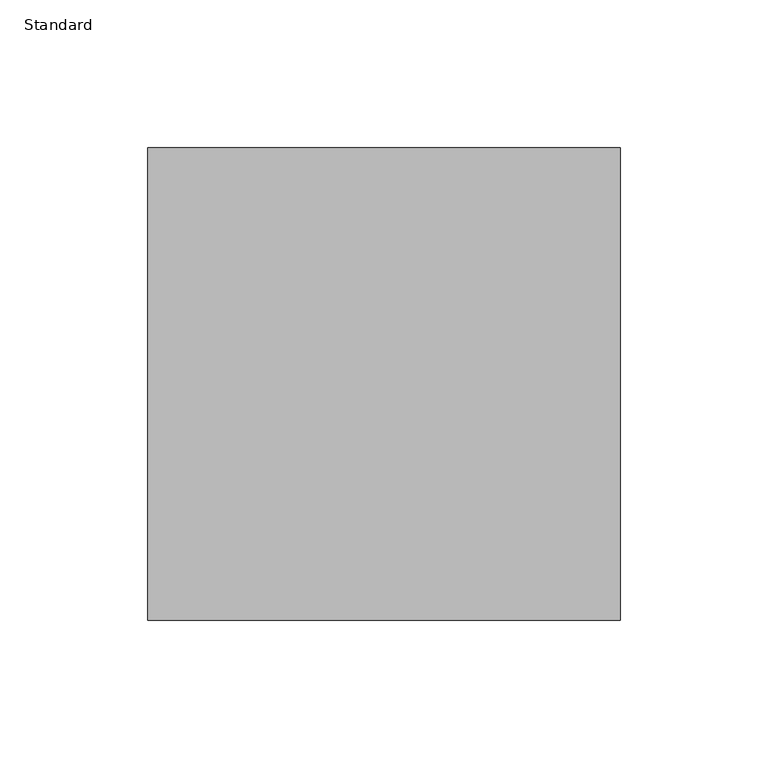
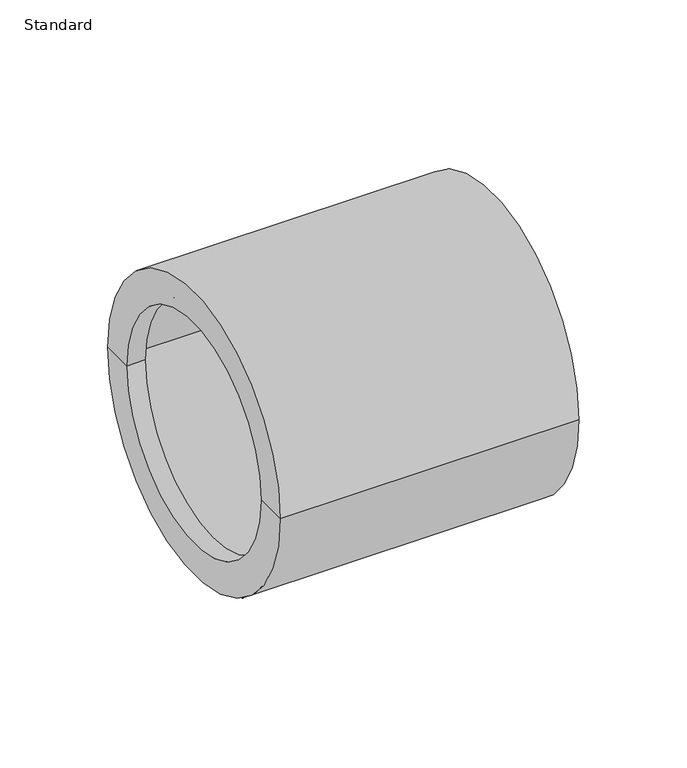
"""IFC4 building model written with IfcOpenShell, lengths in millimetres: pipe fitting geometry, Durapipe_PipeFitting_PVC_ReducingBush : Standard."""

from ifc_helpers import new_model, si_unit, frame, origin, place, context, project, spatial, polyline, circle_curve, source, transform, mapped, element, save
from ifc_brep_helpers import plane_surface, cylinder_surface, revolved_surface, advanced_brep


def standard_09e5b729(model_context):
    return source(origin(), model_context, "Body", "AdvancedBrep", [
        advanced_brep(
        [(-10.0, -62.5, 0.0), (-10.0, 62.5, 0.0), (-10.0, 80.0, 0.0), (-10.0, -80.0, 0.0), (0.0, -62.5, 0.0), (0.0, 62.5, 0.0), (0.0, -70.0, 0.0), (0.0, 70.0, 0.0), (150.0, -70.0, 0.0), (150.0, 70.0, 0.0), (150.0, -80.0, 0.0), (150.0, 80.0, 0.0)],
        [
            (0, 1, circle_curve(frame((-10.0, 0.0, 0.0), z_axis=(1.0, 0.0, 0.0), x_axis=(0.0, 1.0, 0.0)), 62.5)),
            (1, 2),
            (2, 3, circle_curve(frame((-10.0, 0.0, 0.0), z_axis=(-1.0, 0.0, 0.0), x_axis=(0.0, 1.0, 0.0)), 80.0)),
            (3, 0),
            (1, 0, circle_curve(frame((-10.0, 0.0, 0.0), z_axis=(1.0, 0.0, 0.0), x_axis=(0.0, 1.0, 0.0)), 62.5)),
            (3, 2, circle_curve(frame((-10.0, 0.0, 0.0), z_axis=(-1.0, 0.0, 0.0), x_axis=(0.0, 1.0, 0.0)), 80.0)),
            (4, 5, circle_curve(frame((0.0, 0.0, 0.0), z_axis=(1.0, 0.0, 0.0), x_axis=(0.0, 1.0, 0.0)), 62.5)),
            (5, 1),
            (0, 4),
            (5, 4, circle_curve(frame((0.0, 0.0, 0.0), z_axis=(1.0, 0.0, 0.0), x_axis=(0.0, 1.0, 0.0)), 62.5)),
            (6, 7, circle_curve(frame((0.0, 0.0, 0.0), z_axis=(1.0, 0.0, 0.0), x_axis=(0.0, 1.0, 0.0)), 70.0)),
            (7, 5),
            (4, 6),
            (7, 6, circle_curve(frame((0.0, 0.0, 0.0), z_axis=(1.0, 0.0, 0.0), x_axis=(0.0, 1.0, 0.0)), 70.0)),
            (8, 9, circle_curve(frame((150.0, 0.0, 0.0), z_axis=(1.0, 0.0, 0.0), x_axis=(0.0, 1.0, 0.0)), 70.0)),
            (9, 7),
            (6, 8),
            (9, 8, circle_curve(frame((150.0, 0.0, 0.0), z_axis=(1.0, 0.0, 0.0), x_axis=(0.0, 1.0, 0.0)), 70.0)),
            (10, 11, circle_curve(frame((150.0, 0.0, 0.0), z_axis=(1.0, 0.0, 0.0), x_axis=(0.0, 1.0, 0.0)), 80.0)),
            (11, 9),
            (8, 10),
            (11, 10, circle_curve(frame((150.0, 0.0, 0.0), z_axis=(1.0, 0.0, 0.0), x_axis=(0.0, 1.0, 0.0)), 80.0)),
            (2, 11),
            (10, 3),
        ],
        [
            plane_surface(frame((-10.0, 0.0, 0.0), z_axis=(-1.0, 0.0, 0.0), x_axis=(0.0, 1.0, 0.0))),
            revolved_surface(polyline([(-10.0, 62.5, 0.0), (0.0, 62.5, 0.0)]), (2136.0, 0.0, 0.0), (-1.0, 0.0, 0.0)),
            plane_surface(frame((0.0, 0.0, 0.0), z_axis=(1.0, 0.0, 0.0), x_axis=(0.0, 1.0, 0.0))),
            revolved_surface(polyline([(0.0, 70.0, 0.0), (150.0, 70.0, 0.0)]), (2136.0, 0.0, 0.0), (-1.0, 0.0, 0.0)),
            plane_surface(frame((150.0, 0.0, 0.0), z_axis=(1.0, 0.0, 0.0), x_axis=(0.0, 1.0, 0.0))),
            cylinder_surface(frame((2136.0, 0.0, 0.0), z_axis=(-1.0, 0.0, 0.0), x_axis=(0.0, 1.0, 0.0)), 80.0),
        ],
        [
            (0, [[1, 2, 3, 4]]),
            (0, [[5, -4, 6, -2]]),
            (1, [[7, 8, -1, 9]]),
            (1, [[10, -9, -5, -8]]),
            (2, [[11, 12, -7, 13]]),
            (2, [[14, -13, -10, -12]]),
            (3, [[15, 16, -11, 17]]),
            (3, [[18, -17, -14, -16]]),
            (4, [[19, 20, -15, 21]]),
            (4, [[22, -21, -18, -20]]),
            (5, [[-3, 23, -19, 24]]),
            (5, [[-6, -24, -22, -23]]),
        ],
    ),
    ])


if __name__ == "__main__":
    model = new_model("IFC4")
    model_context = context("Model", 3, world=origin())
    ifc_project = project(units=[si_unit("LENGTHUNIT", "METRE", prefix="MILLI")], contexts=[model_context])
    site = spatial("IfcSite", under=ifc_project)
    building = spatial("IfcBuilding", under=site)
    placement = place(None, origin())
    standard_shape = standard_09e5b729(model_context)
    element("IfcPipeFitting", 1, ObjectType="Durapipe_PipeFitting_PVC_ReducingBush : Standard", at=placement, inside=building, context=model_context, shape_type="MappedRepresentation", body=[
        mapped(standard_shape, transform((0.0, 0.0, 0.0), x_axis=(1.0, 0.0, 0.0), y_axis=(0.0, 1.0, 0.0), z_axis=(0.0, 0.0, 1.0))),
    ])
    save(model, "model.ifc")
